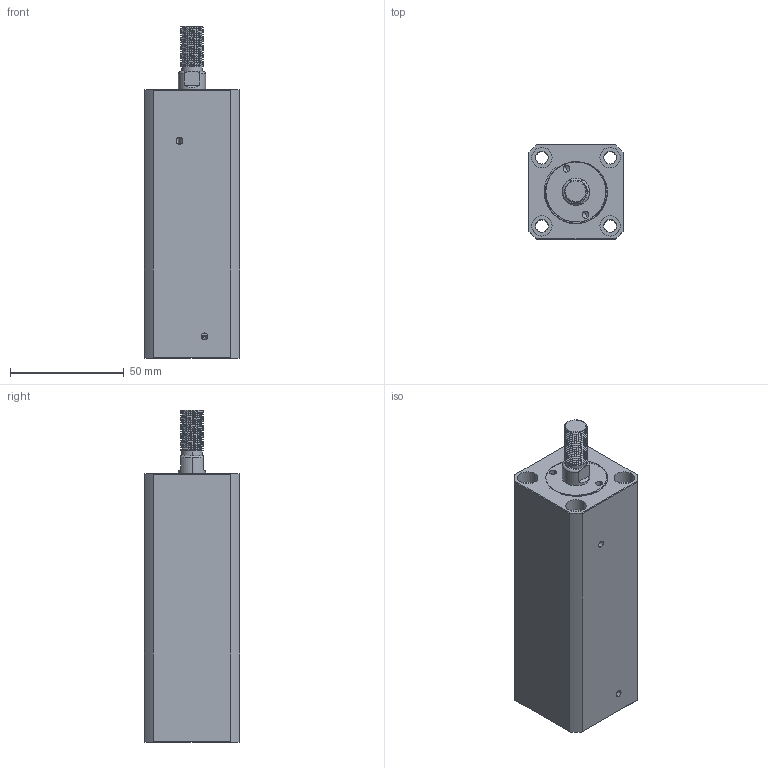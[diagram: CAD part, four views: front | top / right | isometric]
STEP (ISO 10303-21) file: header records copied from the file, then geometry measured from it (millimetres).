
FILE_DESCRIPTION (( 'STEP AP214' ), '1' );
FILE_NAME ('chtb-sdmb20x75w_asm.STEP', '2018-05-18T08:37:20', ( 'Windows' ), ( 'Microsoft' ), 'SwSTEP 2.0', 'SolidWorks 2015', '' );
FILE_SCHEMA (( 'AUTOMOTIVE_DESIGN' ));
Length unit declared in the file: millimetre
Products named in the file (4): QG_3; CHTB-SDMB20X75WHSG; CHTB-SDMB20X75NBT; chtb-sdmb20x75w_asm
Assembly tree (3 placements, depth 2):
  chtb-sdmb20x75w_asm
    CHTB-SDMB20X75NBT
    CHTB-SDMB20X75WHSG
    QG_3
Bounding box: 42 x 42 x 146 mm (x, y, z)
Volume: 176363.2 mm3; surface area: 50253.5 mm2
Topology: 3 solids, 3 shells, 243 faces, 660 edges, 439 vertices
Faces by surface type: cylinder 143, plane 47, torus 25, bspline 23, cone 5
Entity records: 14768 total; most frequent: CARTESIAN_POINT 8984, ORIENTED_EDGE 1312, DIRECTION 1058, EDGE_CURVE 656, VERTEX_POINT 439, AXIS2_PLACEMENT_3D 434, EDGE_LOOP 281, FACE_OUTER_BOUND 243
